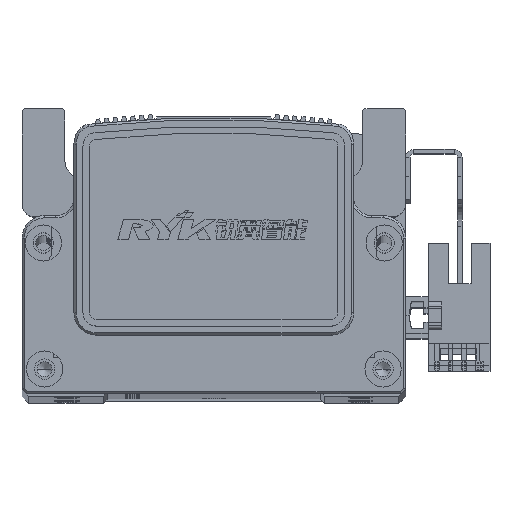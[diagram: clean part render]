
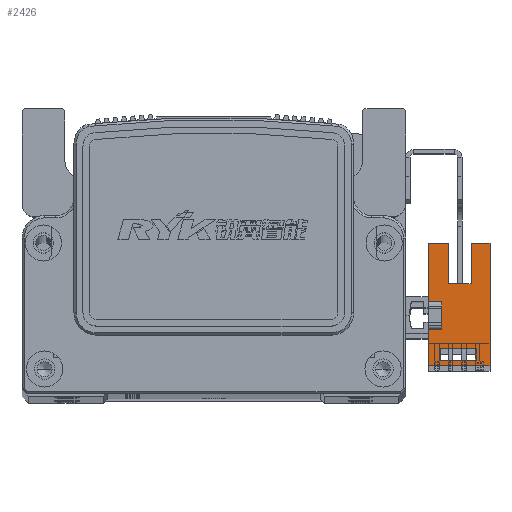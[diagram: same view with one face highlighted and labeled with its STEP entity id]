
A CAD part, top view. The second image highlights one B-rep face of the part: STEP entity #2426.
In plain terms, the highlighted planar face has unit normal (0, 0, 1) as drawn and (1, 0, 0) by its records, which use the part's own axes.
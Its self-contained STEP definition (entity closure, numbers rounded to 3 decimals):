
#572 = VERTEX_POINT ( 'NONE', #11186 ) ;
#632 = VERTEX_POINT ( 'NONE', #11242 ) ;
#862 = VERTEX_POINT ( 'NONE', #11388 ) ;
#941 = VERTEX_POINT ( 'NONE', #11362 ) ;
#2426 = ADVANCED_FACE ( 'NONE', ( #18892, #18916 ), #46149, .T. ) ;
#9296 = LINE ( 'NONE', #48435, #9314 ) ;
#9314 = VECTOR ( 'NONE', #48404, 1000. ) ;
#9385 = LINE ( 'NONE', #48465, #9411 ) ;
#9410 = LINE ( 'NONE', #48526, #9442 ) ;
#9411 = VECTOR ( 'NONE', #48471, 1000. ) ;
#9442 = VECTOR ( 'NONE', #48511, 1000. ) ;
#9451 = LINE ( 'NONE', #48497, #9495 ) ;
#9489 = VECTOR ( 'NONE', #48505, 1000. ) ;
#9495 = VECTOR ( 'NONE', #48504, 1000. ) ;
#9506 = LINE ( 'NONE', #48498, #9489 ) ;
#9514 = LINE ( 'NONE', #48593, #9525 ) ;
#9515 = LINE ( 'NONE', #48633, #9586 ) ;
#9521 = VECTOR ( 'NONE', #48577, 1000. ) ;
#9525 = VECTOR ( 'NONE', #48580, 1000. ) ;
#9526 = LINE ( 'NONE', #48615, #9558 ) ;
#9527 = VECTOR ( 'NONE', #48637, 1000. ) ;
#9530 = VECTOR ( 'NONE', #48612, 1000. ) ;
#9532 = VECTOR ( 'NONE', #48570, 1000. ) ;
#9537 = LINE ( 'NONE', #48571, #9521 ) ;
#9540 = LINE ( 'NONE', #48630, #9527 ) ;
#9545 = VECTOR ( 'NONE', #48585, 1000. ) ;
#9548 = LINE ( 'NONE', #48569, #9545 ) ;
#9551 = VECTOR ( 'NONE', #48600, 1000. ) ;
#9555 = LINE ( 'NONE', #48568, #9532 ) ;
#9558 = VECTOR ( 'NONE', #48627, 1000. ) ;
#9564 = VECTOR ( 'NONE', #48628, 1000. ) ;
#9566 = LINE ( 'NONE', #48647, #9564 ) ;
#9571 = LINE ( 'NONE', #48579, #9551 ) ;
#9572 = LINE ( 'NONE', #48610, #9530 ) ;
#9586 = VECTOR ( 'NONE', #48641, 1000. ) ;
#9629 = LINE ( 'NONE', #48669, #9637 ) ;
#9637 = VECTOR ( 'NONE', #48673, 1000. ) ;
#11186 = CARTESIAN_POINT ( 'NONE',  ( 3.2, 16.1, -6.5 ) ) ;
#11242 = CARTESIAN_POINT ( 'NONE',  ( 3.2, 16.1, -10.7 ) ) ;
#11362 = CARTESIAN_POINT ( 'NONE',  ( 3.2, -7.33, -7.7 ) ) ;
#11388 = CARTESIAN_POINT ( 'NONE',  ( 3.2, -9.83, -7.7 ) ) ;
#12520 = EDGE_LOOP ( 'NONE', ( #22586, #22533, #22534, #22582, #22610, #22609, #22575, #22607, #22578, #22579, #22613, #22576 ) ) ;
#12614 = EDGE_LOOP ( 'NONE', ( #21424, #22831, #21428, #21464 ) ) ;
#18892 = FACE_OUTER_BOUND ( 'NONE', #12520, .T. ) ;
#18916 = FACE_BOUND ( 'NONE', #12614, .T. ) ;
#20586 = CARTESIAN_POINT ( 'NONE',  ( 3.2, -11.1, 3. ) ) ;
#20599 = CARTESIAN_POINT ( 'NONE',  ( 3.2, 16.1, 3. ) ) ;
#20610 = CARTESIAN_POINT ( 'NONE',  ( 3.2, -3.1, 3. ) ) ;
#20636 = CARTESIAN_POINT ( 'NONE',  ( 3.2, 3.1, 3. ) ) ;
#21424 = ORIENTED_EDGE ( 'NONE', *, *, #45727, .F. ) ;
#21428 = ORIENTED_EDGE ( 'NONE', *, *, #45772, .F. ) ;
#21464 = ORIENTED_EDGE ( 'NONE', *, *, #45763, .F. ) ;
#22533 = ORIENTED_EDGE ( 'NONE', *, *, #45662, .T. ) ;
#22534 = ORIENTED_EDGE ( 'NONE', *, *, #45803, .T. ) ;
#22575 = ORIENTED_EDGE ( 'NONE', *, *, #45741, .F. ) ;
#22576 = ORIENTED_EDGE ( 'NONE', *, *, #45645, .T. ) ;
#22578 = ORIENTED_EDGE ( 'NONE', *, *, #45652, .F. ) ;
#22579 = ORIENTED_EDGE ( 'NONE', *, *, #45785, .F. ) ;
#22582 = ORIENTED_EDGE ( 'NONE', *, *, #45725, .T. ) ;
#22586 = ORIENTED_EDGE ( 'NONE', *, *, #45751, .T. ) ;
#22607 = ORIENTED_EDGE ( 'NONE', *, *, #45730, .F. ) ;
#22609 = ORIENTED_EDGE ( 'NONE', *, *, #45641, .F. ) ;
#22610 = ORIENTED_EDGE ( 'NONE', *, *, #45569, .F. ) ;
#22613 = ORIENTED_EDGE ( 'NONE', *, *, #45761, .T. ) ;
#22831 = ORIENTED_EDGE ( 'NONE', *, *, #45766, .F. ) ;
#26878 = AXIS2_PLACEMENT_3D ( 'NONE', #46154, #46190, #46163 ) ;
#38643 = VERTEX_POINT ( 'NONE', #20599 ) ;
#38647 = VERTEX_POINT ( 'NONE', #20636 ) ;
#38651 = VERTEX_POINT ( 'NONE', #20586 ) ;
#38659 = VERTEX_POINT ( 'NONE', #20610 ) ;
#45569 = EDGE_CURVE ( 'NONE', #38647, #38643, #9296, .T. ) ;
#45641 = EDGE_CURVE ( 'NONE', #53238, #38647, #9385, .T. ) ;
#45645 = EDGE_CURVE ( 'NONE', #632, #572, #9410, .T. ) ;
#45652 = EDGE_CURVE ( 'NONE', #38651, #38659, #9506, .T. ) ;
#45662 = EDGE_CURVE ( 'NONE', #53247, #53249, #9451, .T. ) ;
#45725 = EDGE_CURVE ( 'NONE', #53224, #38643, #9548, .T. ) ;
#45727 = EDGE_CURVE ( 'NONE', #53240, #53231, #9555, .T. ) ;
#45730 = EDGE_CURVE ( 'NONE', #38659, #53229, #9537, .T. ) ;
#45741 = EDGE_CURVE ( 'NONE', #53229, #53238, #9571, .T. ) ;
#45751 = EDGE_CURVE ( 'NONE', #572, #53247, #9514, .T. ) ;
#45761 = EDGE_CURVE ( 'NONE', #53245, #632, #9526, .T. ) ;
#45763 = EDGE_CURVE ( 'NONE', #53231, #862, #9566, .T. ) ;
#45766 = EDGE_CURVE ( 'NONE', #941, #53240, #9540, .T. ) ;
#45772 = EDGE_CURVE ( 'NONE', #862, #941, #9572, .T. ) ;
#45785 = EDGE_CURVE ( 'NONE', #53245, #38651, #9515, .T. ) ;
#45803 = EDGE_CURVE ( 'NONE', #53249, #53224, #9629, .T. ) ;
#46149 = PLANE ( 'NONE',  #26878 ) ;
#46154 = CARTESIAN_POINT ( 'NONE',  ( 3.2, 16.1, -10.7 ) ) ;
#46163 = DIRECTION ( 'NONE',  ( 0., 1., 0. ) ) ;
#46190 = DIRECTION ( 'NONE',  ( 1., 0., 0. ) ) ;
#48038 = CARTESIAN_POINT ( 'NONE',  ( 3.2, -9.83, 0.3 ) ) ;
#48043 = CARTESIAN_POINT ( 'NONE',  ( 3.2, -7.33, 0.3 ) ) ;
#48045 = CARTESIAN_POINT ( 'NONE',  ( 3.2, -3.1, 0. ) ) ;
#48046 = CARTESIAN_POINT ( 'NONE',  ( 3.2, 3.1, 0. ) ) ;
#48051 = CARTESIAN_POINT ( 'NONE',  ( 3.2, -11.1, -10.7 ) ) ;
#48054 = CARTESIAN_POINT ( 'NONE',  ( 3.2, 7.1, -1.5 ) ) ;
#48057 = CARTESIAN_POINT ( 'NONE',  ( 3.2, 7.1, -6.5 ) ) ;
#48058 = CARTESIAN_POINT ( 'NONE',  ( 3.2, 16.1, -1.5 ) ) ;
#48404 = DIRECTION ( 'NONE',  ( 0., 1., 0. ) ) ;
#48435 = CARTESIAN_POINT ( 'NONE',  ( 3.2, 16.1, 3. ) ) ;
#48465 = CARTESIAN_POINT ( 'NONE',  ( 3.2, 3.1, 3. ) ) ;
#48471 = DIRECTION ( 'NONE',  ( 0., 0., 1. ) ) ;
#48497 = CARTESIAN_POINT ( 'NONE',  ( 3.2, 7.1, -6.5 ) ) ;
#48498 = CARTESIAN_POINT ( 'NONE',  ( 3.2, 16.1, 3. ) ) ;
#48504 = DIRECTION ( 'NONE',  ( 0., 0., 1. ) ) ;
#48505 = DIRECTION ( 'NONE',  ( 0., 1., 0. ) ) ;
#48511 = DIRECTION ( 'NONE',  ( 0., 0., 1. ) ) ;
#48526 = CARTESIAN_POINT ( 'NONE',  ( 3.2, 16.1, -10.7 ) ) ;
#48568 = CARTESIAN_POINT ( 'NONE',  ( 3.2, 16.1, 0.3 ) ) ;
#48569 = CARTESIAN_POINT ( 'NONE',  ( 3.2, 16.1, -10.7 ) ) ;
#48570 = DIRECTION ( 'NONE',  ( 0., -1., 0. ) ) ;
#48571 = CARTESIAN_POINT ( 'NONE',  ( 3.2, -3.1, 3. ) ) ;
#48577 = DIRECTION ( 'NONE',  ( 0., 0., -1. ) ) ;
#48579 = CARTESIAN_POINT ( 'NONE',  ( 3.2, 0., 0. ) ) ;
#48580 = DIRECTION ( 'NONE',  ( 0., -1., 0. ) ) ;
#48585 = DIRECTION ( 'NONE',  ( 0., 0., 1. ) ) ;
#48593 = CARTESIAN_POINT ( 'NONE',  ( 3.2, 25.1, -6.5 ) ) ;
#48600 = DIRECTION ( 'NONE',  ( 0., 1., 0. ) ) ;
#48610 = CARTESIAN_POINT ( 'NONE',  ( 3.2, 16.1, -7.7 ) ) ;
#48612 = DIRECTION ( 'NONE',  ( 0., 1., 0. ) ) ;
#48615 = CARTESIAN_POINT ( 'NONE',  ( 3.2, 16.1, -10.7 ) ) ;
#48627 = DIRECTION ( 'NONE',  ( 0., 1., 0. ) ) ;
#48628 = DIRECTION ( 'NONE',  ( 0., 0., -1. ) ) ;
#48630 = CARTESIAN_POINT ( 'NONE',  ( 3.2, -7.33, -10.7 ) ) ;
#48633 = CARTESIAN_POINT ( 'NONE',  ( 3.2, -11.1, 3. ) ) ;
#48637 = DIRECTION ( 'NONE',  ( 0., 0., 1. ) ) ;
#48641 = DIRECTION ( 'NONE',  ( 0., 0., 1. ) ) ;
#48647 = CARTESIAN_POINT ( 'NONE',  ( 3.2, -9.83, -10.7 ) ) ;
#48669 = CARTESIAN_POINT ( 'NONE',  ( 3.2, 25.1, -1.5 ) ) ;
#48673 = DIRECTION ( 'NONE',  ( 0., 1., 0. ) ) ;
#53224 = VERTEX_POINT ( 'NONE', #48058 ) ;
#53229 = VERTEX_POINT ( 'NONE', #48045 ) ;
#53231 = VERTEX_POINT ( 'NONE', #48038 ) ;
#53238 = VERTEX_POINT ( 'NONE', #48046 ) ;
#53240 = VERTEX_POINT ( 'NONE', #48043 ) ;
#53245 = VERTEX_POINT ( 'NONE', #48051 ) ;
#53247 = VERTEX_POINT ( 'NONE', #48057 ) ;
#53249 = VERTEX_POINT ( 'NONE', #48054 ) ;
